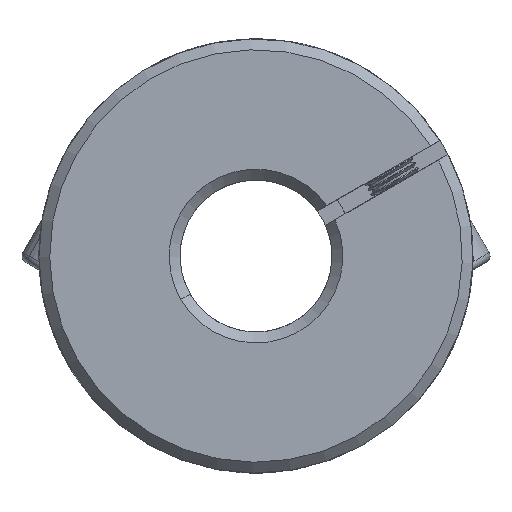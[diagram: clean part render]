
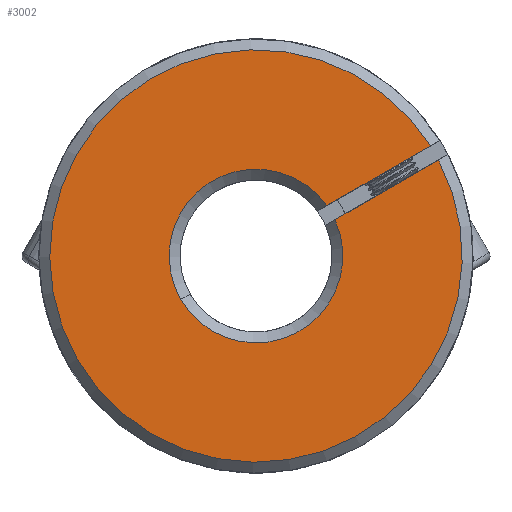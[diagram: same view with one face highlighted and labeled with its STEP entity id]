
A CAD part, front view. The second image highlights one B-rep face of the part: STEP entity #3002.
In plain terms, the highlighted planar face has unit normal (0, -1, 0).
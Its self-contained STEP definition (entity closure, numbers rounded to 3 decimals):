
#297 = CARTESIAN_POINT ( 'NONE',  ( 15.367, -31.239, 48.848 ) ) ;
#351 = DIRECTION ( 'NONE',  ( 0., 1., 0. ) ) ;
#783 = AXIS2_PLACEMENT_3D ( 'NONE', #10976, #8819, #2361 ) ;
#1022 = CARTESIAN_POINT ( 'NONE',  ( 5.825, -31.239, 43.335 ) ) ;
#1523 = CARTESIAN_POINT ( 'NONE',  ( 14.616, -31.239, 50.147 ) ) ;
#1805 = VECTOR ( 'NONE', #6285, 1000. ) ;
#1928 = AXIS2_PLACEMENT_3D ( 'NONE', #12955, #351, #11892 ) ;
#2361 = DIRECTION ( 'NONE',  ( 0.5, 0., -0.866 ) ) ;
#2603 = AXIS2_PLACEMENT_3D ( 'NONE', #8240, #9259, #12699 ) ;
#2706 = DIRECTION ( 'NONE',  ( 0., 1., 0. ) ) ;
#3002 = ADVANCED_FACE ( 'NONE', ( #8014 ), #10332, .F. ) ;
#3047 = EDGE_CURVE ( 'NONE', #11935, #8330, #11373, .T. ) ;
#3766 = DIRECTION ( 'NONE',  ( 0.5, 0., -0.866 ) ) ;
#4091 = EDGE_CURVE ( 'NONE', #10599, #8330, #11003, .T. ) ;
#4214 = ORIENTED_EDGE ( 'NONE', *, *, #3047, .F. ) ;
#4860 = CIRCLE ( 'NONE', #12063, 8. ) ;
#4988 = CARTESIAN_POINT ( 'NONE',  ( 4.954, -31.239, 42.832 ) ) ;
#5023 = LINE ( 'NONE', #13915, #1805 ) ;
#5036 = VERTEX_POINT ( 'NONE', #9482 ) ;
#5315 = VECTOR ( 'NONE', #7160, 1000. ) ;
#5592 = ORIENTED_EDGE ( 'NONE', *, *, #8312, .T. ) ;
#6285 = DIRECTION ( 'NONE',  ( -0.866, 0., -0.5 ) ) ;
#6959 = EDGE_LOOP ( 'NONE', ( #4214, #8259, #5592, #10269, #13448 ) ) ;
#7160 = DIRECTION ( 'NONE',  ( 0.866, 0., 0.5 ) ) ;
#8014 = FACE_OUTER_BOUND ( 'NONE', #6959, .T. ) ;
#8240 = CARTESIAN_POINT ( 'NONE',  ( 52.98, -31.239, 45.743 ) ) ;
#8246 = EDGE_CURVE ( 'NONE', #10599, #8439, #5023, .T. ) ;
#8259 = ORIENTED_EDGE ( 'NONE', *, *, #12435, .T. ) ;
#8312 = EDGE_CURVE ( 'NONE', #5036, #8439, #12935, .T. ) ;
#8330 = VERTEX_POINT ( 'NONE', #297 ) ;
#8439 = VERTEX_POINT ( 'NONE', #10081 ) ;
#8819 = DIRECTION ( 'NONE',  ( 0., -1., 0. ) ) ;
#9154 = CARTESIAN_POINT ( 'NONE',  ( -1.447, -31.239, 40. ) ) ;
#9259 = DIRECTION ( 'NONE',  ( 0., 1., 0. ) ) ;
#9482 = CARTESIAN_POINT ( 'NONE',  ( -8.374, -31.239, 35.998 ) ) ;
#10081 = CARTESIAN_POINT ( 'NONE',  ( 5.074, -31.239, 44.634 ) ) ;
#10269 = ORIENTED_EDGE ( 'NONE', *, *, #8246, .F. ) ;
#10332 = PLANE ( 'NONE',  #2603 ) ;
#10599 = VERTEX_POINT ( 'NONE', #1523 ) ;
#10976 = CARTESIAN_POINT ( 'NONE',  ( -1.447, -31.239, 40. ) ) ;
#11003 = CIRCLE ( 'NONE', #783, 19. ) ;
#11373 = LINE ( 'NONE', #4988, #5315 ) ;
#11892 = DIRECTION ( 'NONE',  ( 0.5, 0., -0.866 ) ) ;
#11935 = VERTEX_POINT ( 'NONE', #1022 ) ;
#12063 = AXIS2_PLACEMENT_3D ( 'NONE', #9154, #2706, #3766 ) ;
#12435 = EDGE_CURVE ( 'NONE', #11935, #5036, #4860, .T. ) ;
#12699 = DIRECTION ( 'NONE',  ( 0.5, 0., -0.866 ) ) ;
#12935 = CIRCLE ( 'NONE', #1928, 8. ) ;
#12955 = CARTESIAN_POINT ( 'NONE',  ( -1.447, -31.239, 40. ) ) ;
#13448 = ORIENTED_EDGE ( 'NONE', *, *, #4091, .T. ) ;
#13915 = CARTESIAN_POINT ( 'NONE',  ( 4.204, -31.239, 44.131 ) ) ;
